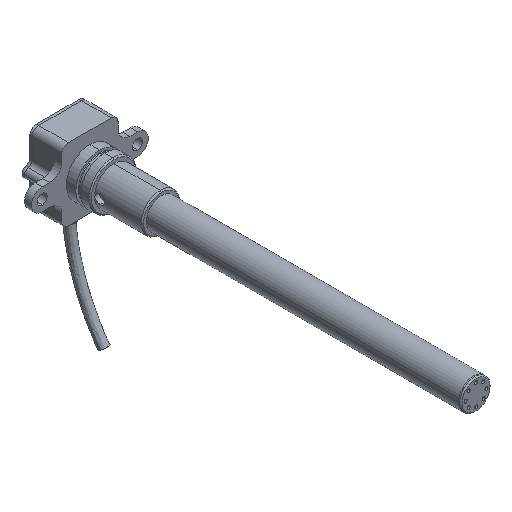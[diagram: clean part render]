
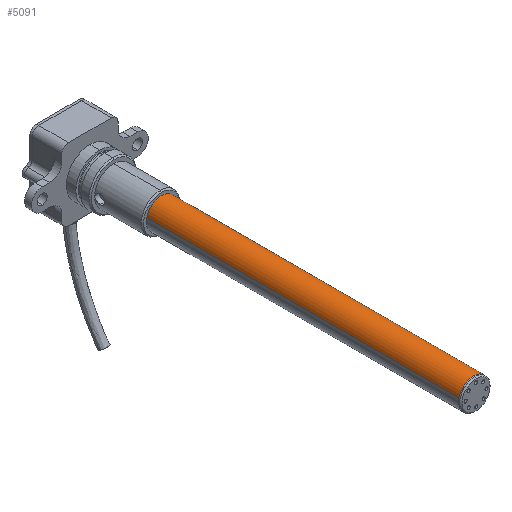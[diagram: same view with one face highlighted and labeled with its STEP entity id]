
A CAD part, isometric view. The second image highlights one B-rep face of the part: STEP entity #5091.
In plain terms, the highlighted cylindrical face has radius 6.35 mm (diameter 12.7 mm), a partial arc.
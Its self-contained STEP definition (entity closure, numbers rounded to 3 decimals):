
#76 = DIRECTION ( 'NONE',  ( 0., -1., 0. ) ) ;
#159 = CIRCLE ( 'NONE', #4183, 6.35 ) ;
#815 = VERTEX_POINT ( 'NONE', #3490 ) ;
#991 = CARTESIAN_POINT ( 'NONE',  ( -6.161, -131., 1.537 ) ) ;
#1178 = CIRCLE ( 'NONE', #2879, 6.35 ) ;
#1492 = CARTESIAN_POINT ( 'NONE',  ( -6.161, 0., 1.537 ) ) ;
#2461 = LINE ( 'NONE', #5307, #6714 ) ;
#2835 = CARTESIAN_POINT ( 'NONE',  ( 0., -131., 6.35 ) ) ;
#2879 = AXIS2_PLACEMENT_3D ( 'NONE', #5406, #9467, #10544 ) ;
#2921 = DIRECTION ( 'NONE',  ( 0., 0., -1. ) ) ;
#2979 = DIRECTION ( 'NONE',  ( 0., -1., 0. ) ) ;
#3019 = ORIENTED_EDGE ( 'NONE', *, *, #11460, .F. ) ;
#3129 = DIRECTION ( 'NONE',  ( 0., 0., 1. ) ) ;
#3490 = CARTESIAN_POINT ( 'NONE',  ( 6.161, 0., -1.537 ) ) ;
#3749 = DIRECTION ( 'NONE',  ( 0., -1., 0. ) ) ;
#3860 = DIRECTION ( 'NONE',  ( 0., -1., 0. ) ) ;
#3895 = VERTEX_POINT ( 'NONE', #1492 ) ;
#4114 = ORIENTED_EDGE ( 'NONE', *, *, #8829, .F. ) ;
#4183 = AXIS2_PLACEMENT_3D ( 'NONE', #8768, #2979, #2921 ) ;
#4378 = AXIS2_PLACEMENT_3D ( 'NONE', #7038, #76, #3129 ) ;
#4552 = CARTESIAN_POINT ( 'NONE',  ( 6.161, -131., -1.537 ) ) ;
#4741 = DIRECTION ( 'NONE',  ( 0.97, 0., -0.242 ) ) ;
#4809 = FACE_OUTER_BOUND ( 'NONE', #7671, .T. ) ;
#4876 = CARTESIAN_POINT ( 'NONE',  ( 0., 20., 0. ) ) ;
#5091 = ADVANCED_FACE ( 'Defeatured_3_98', ( #4809 ), #6733, .T. ) ;
#5307 = CARTESIAN_POINT ( 'NONE',  ( -6.161, 20., 1.537 ) ) ;
#5406 = CARTESIAN_POINT ( 'NONE',  ( 0., -131., 0. ) ) ;
#5543 = VERTEX_POINT ( 'NONE', #4552 ) ;
#5720 = LINE ( 'NONE', #12829, #6272 ) ;
#6272 = VECTOR ( 'NONE', #3860, 1000. ) ;
#6714 = VECTOR ( 'NONE', #12491, 1000. ) ;
#6733 = CYLINDRICAL_SURFACE ( 'NONE', #9815, 6.35 ) ;
#7038 = CARTESIAN_POINT ( 'NONE',  ( 0., 0., 0. ) ) ;
#7671 = EDGE_LOOP ( 'NONE', ( #8229, #12025, #3019, #4114, #9660 ) ) ;
#8229 = ORIENTED_EDGE ( 'NONE', *, *, #9739, .T. ) ;
#8431 = VERTEX_POINT ( 'NONE', #991 ) ;
#8768 = CARTESIAN_POINT ( 'NONE',  ( 0., -131., 0. ) ) ;
#8829 = EDGE_CURVE ( 'NONE', #5543, #10424, #1178, .T. ) ;
#9467 = DIRECTION ( 'NONE',  ( 0., -1., 0. ) ) ;
#9660 = ORIENTED_EDGE ( 'NONE', *, *, #9664, .F. ) ;
#9664 = EDGE_CURVE ( 'NONE', #815, #5543, #5720, .T. ) ;
#9739 = EDGE_CURVE ( 'NONE', #815, #3895, #13070, .T. ) ;
#9815 = AXIS2_PLACEMENT_3D ( 'NONE', #4876, #3749, #4741 ) ;
#9884 = EDGE_CURVE ( 'NONE', #3895, #8431, #2461, .T. ) ;
#10424 = VERTEX_POINT ( 'NONE', #2835 ) ;
#10544 = DIRECTION ( 'NONE',  ( 0., 0., -1. ) ) ;
#11460 = EDGE_CURVE ( 'NONE', #10424, #8431, #159, .T. ) ;
#12025 = ORIENTED_EDGE ( 'NONE', *, *, #9884, .T. ) ;
#12491 = DIRECTION ( 'NONE',  ( 0., -1., 0. ) ) ;
#12829 = CARTESIAN_POINT ( 'NONE',  ( 6.161, 20., -1.537 ) ) ;
#13070 = CIRCLE ( 'NONE', #4378, 6.35 ) ;
